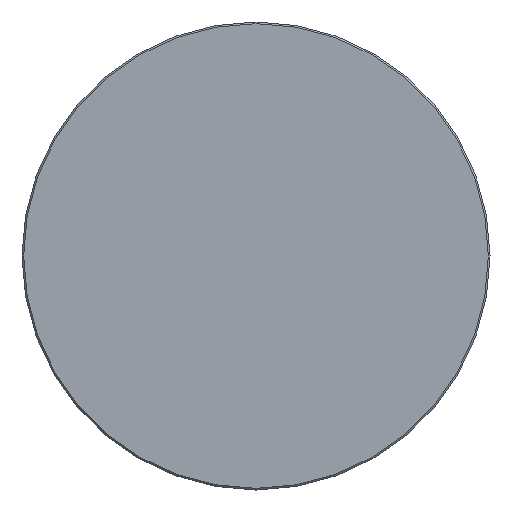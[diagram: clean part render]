
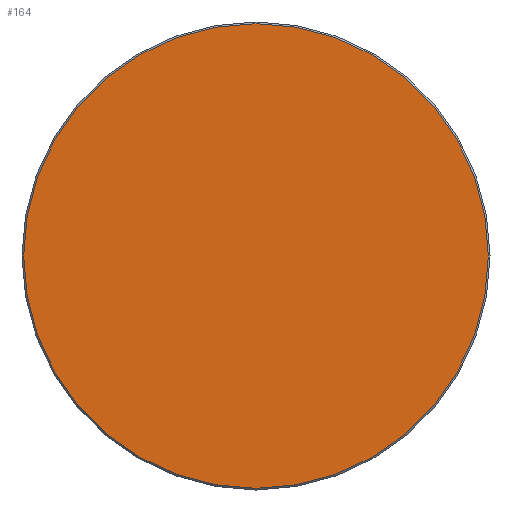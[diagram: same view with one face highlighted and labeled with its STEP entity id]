
A CAD part, left-side view. The second image highlights one B-rep face of the part: STEP entity #164.
In plain terms, the highlighted planar face has unit normal (-1, 0, 0).
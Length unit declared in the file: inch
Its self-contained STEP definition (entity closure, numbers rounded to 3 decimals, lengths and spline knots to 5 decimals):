
#1 = EDGE_CURVE ( 'NONE', #171, #314, #10, .T. ) ;
#10 = CIRCLE ( 'NONE', #136, 0.5585 ) ;
#38 = AXIS2_PLACEMENT_3D ( 'NONE', #349, #214, #86 ) ;
#39 = DIRECTION ( 'NONE',  ( 0., -1., 0. ) ) ;
#86 = DIRECTION ( 'NONE',  ( 0., -1., 0. ) ) ;
#97 = CARTESIAN_POINT ( 'NONE',  ( 0., 0.5585, 0. ) ) ;
#122 = DIRECTION ( 'NONE',  ( -1., 0., 0. ) ) ;
#136 = AXIS2_PLACEMENT_3D ( 'NONE', #340, #139, #39 ) ;
#139 = DIRECTION ( 'NONE',  ( -1., 0., 0. ) ) ;
#147 = FACE_OUTER_BOUND ( 'NONE', #227, .T. ) ;
#164 = ADVANCED_FACE ( 'NONE', ( #147 ), #245, .T. ) ;
#171 = VERTEX_POINT ( 'NONE', #97 ) ;
#209 = CARTESIAN_POINT ( 'NONE',  ( 0., -0.5585, 0. ) ) ;
#214 = DIRECTION ( 'NONE',  ( -1., 0., 0. ) ) ;
#227 = EDGE_LOOP ( 'NONE', ( #336, #246 ) ) ;
#245 = PLANE ( 'NONE',  #38 ) ;
#246 = ORIENTED_EDGE ( 'NONE', *, *, #357, .T. ) ;
#269 = DIRECTION ( 'NONE',  ( 0., -1., 0. ) ) ;
#272 = CIRCLE ( 'NONE', #307, 0.5585 ) ;
#307 = AXIS2_PLACEMENT_3D ( 'NONE', #327, #122, #269 ) ;
#314 = VERTEX_POINT ( 'NONE', #209 ) ;
#327 = CARTESIAN_POINT ( 'NONE',  ( 0., 0., 0. ) ) ;
#336 = ORIENTED_EDGE ( 'NONE', *, *, #1, .T. ) ;
#340 = CARTESIAN_POINT ( 'NONE',  ( 0., 0., 0. ) ) ;
#349 = CARTESIAN_POINT ( 'NONE',  ( 0., 0., 0. ) ) ;
#357 = EDGE_CURVE ( 'NONE', #314, #171, #272, .T. ) ;
